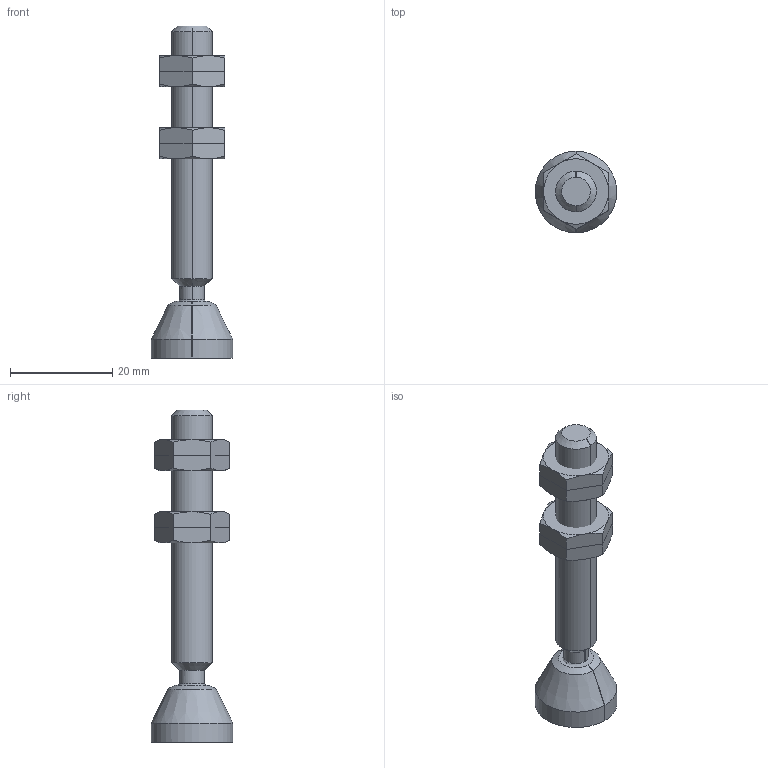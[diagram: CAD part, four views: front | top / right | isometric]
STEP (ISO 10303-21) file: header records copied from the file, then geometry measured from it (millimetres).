
FILE_DESCRIPTION((''),' ');
FILE_NAME('GH_SF_08065_M8x65.stp',' ',('Rui Rosa'),('Fixsolda, Lda'),' ','ACIS 14.0',' ');
FILE_SCHEMA(('automotive_design'));
Length unit declared in the file: inch
Products named in the file (5): Bauteil_6108; Bauteil_6400; Bauteil_97; Bauteil_775
Bounding box: 16 x 16 x 65.02 mm (x, y, z)
Volume: 5707.4 mm3; surface area: 3448.1 mm2
Topology: 4 solids, 4 shells, 89 faces, 352 edges, 269 vertices
Faces by surface type: cone 40, plane 31, cylinder 16, bspline 2
Entity records: 8108 total; most frequent: CARTESIAN_POINT 1296, STYLED_ITEM 713, PRESENTATION_STYLE_ASSIGNMENT 713, COLOUR_RGB 713, ORIENTED_EDGE 700, DIRECTION 545, CURVE_STYLE 351, DRAUGHTING_PRE_DEFINED_CURVE_FONT 351
